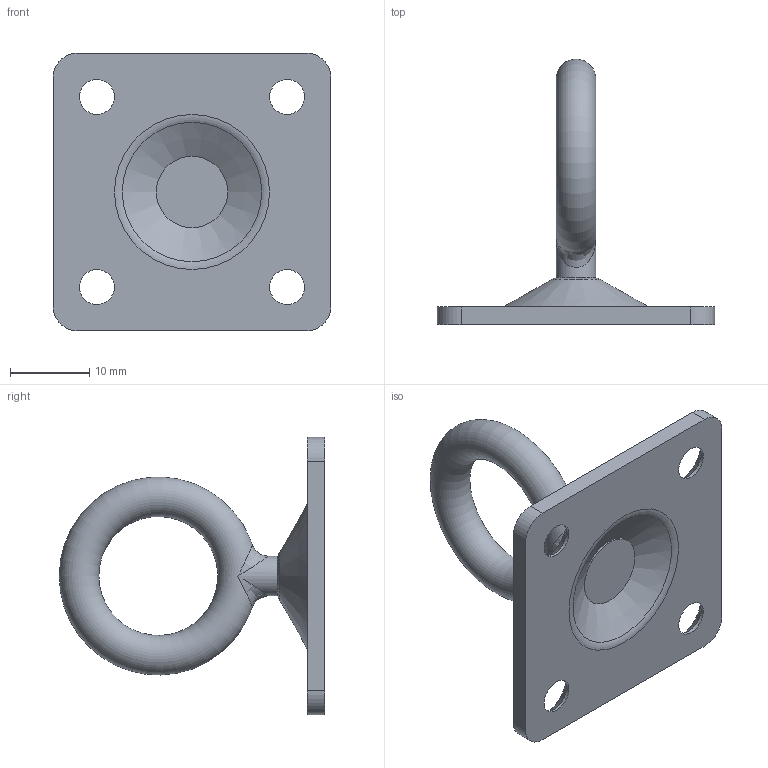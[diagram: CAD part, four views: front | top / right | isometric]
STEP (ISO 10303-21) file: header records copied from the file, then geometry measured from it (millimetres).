
FILE_DESCRIPTION(/* description */ (''),/* implementation_level */ '2;1');
FILE_NAME(/* name */ '\\SYNOLOGYNAS\web\db2\GLS-3535\도면\GLS-3535.stp',/* time_stamp */ '2024-12-30T16:22:37+09:00',/* author */ ('user'),/* organization */ (''),/* preprocessor_version */ 'ST-DEVELOPER v15.6',/* originating_system */ 'Autodesk Inventor 2015',/* authorisation */ '');
FILE_SCHEMA (('AUTOMOTIVE_DESIGN { 1 0 10303 214 3 1 1 }'));
Length unit declared in the file: millimetre
Products named in the file (3): 밑판; 고리; GLS-3535
Bounding box: 35 x 33.49 x 35 mm (x, y, z)
Volume: 3788.9 mm3; surface area: 3968 mm2
Topology: 2 solids, 2 shells, 35 faces, 87 edges, 55 vertices
Faces by surface type: cylinder 12, plane 11, cone 6, bspline 4, torus 2
Full cylindrical faces by diameter (mm): 3 x2, 4.4 x4, 5 x1, 9 x1
Entity records: 1187 total; most frequent: CARTESIAN_POINT 387, DIRECTION 164, ORIENTED_EDGE 120, AXIS2_PLACEMENT_3D 74, EDGE_LOOP 64, EDGE_CURVE 60, VERTEX_POINT 48, CIRCLE 38
